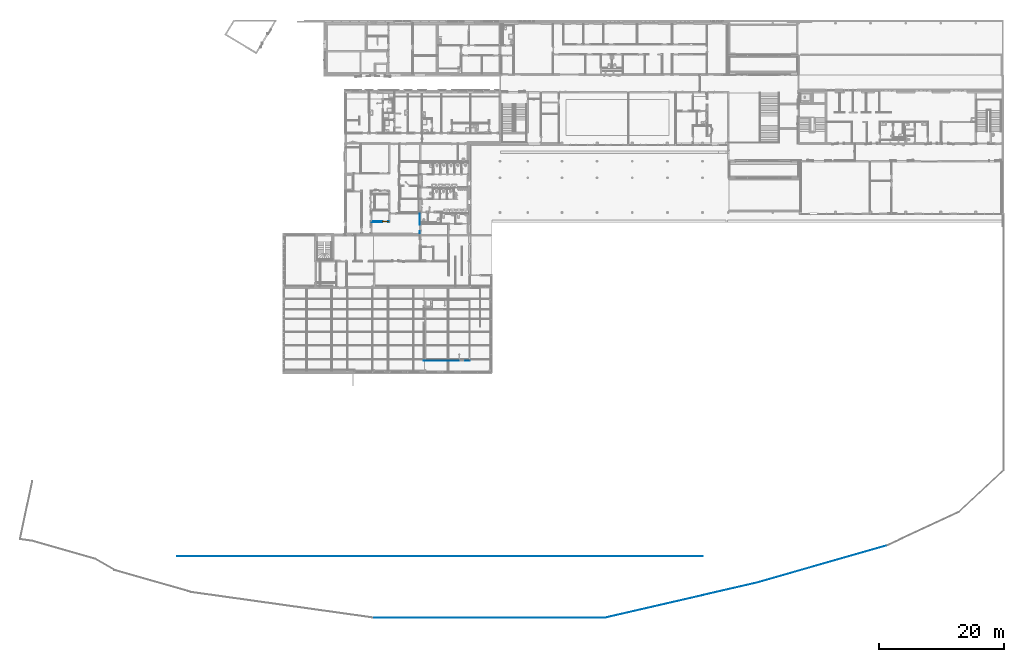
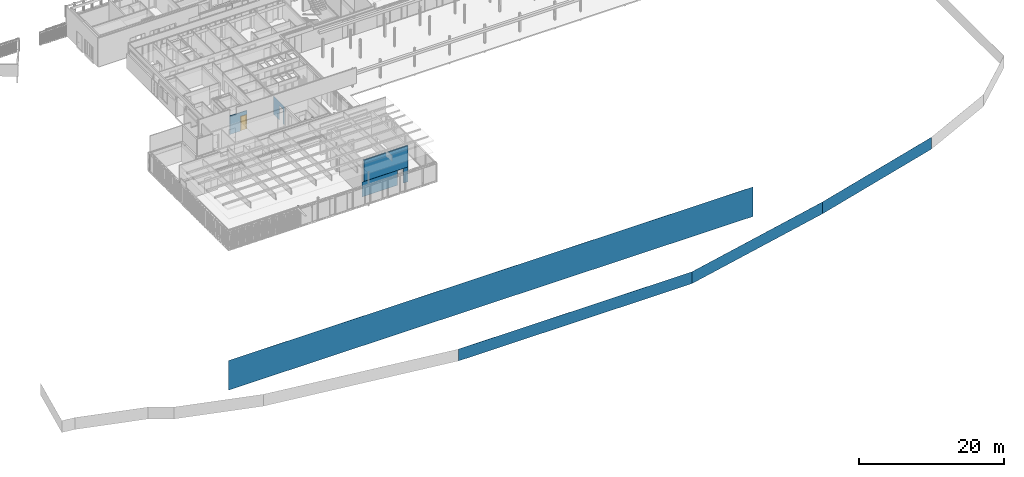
# One storey, part 90 of 240: 8 walls, 1 door, 4 openings.
"""IFC2X3 building model written with IfcOpenShell, lengths in centimetres."""

from ifc_helpers import new_model, entity, si_unit, converted_unit, derived_unit, direction, frame, frame_2d, origin, place, context, subcontext, project, spatial, polyline, rectangle, outline, extrude, faceted_brep, source, transform, mapped, material, material_list, layer, layer_set, layer_usage, type_object, type_shapes, element, fill, save


model = new_model("IFC2X3")

# Units and contexts
model_context = context("Model", 3, precision=0.001, world=origin(), true_north=direction((6.12303176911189e-17, 1.0)))
body_context = subcontext(model_context, "Body", "Model", "MODEL_VIEW")
ifc_project = project(units=[si_unit("LENGTHUNIT", "METRE", prefix="CENTI"), si_unit("AREAUNIT", "SQUARE_METRE"), si_unit("VOLUMEUNIT", "CUBIC_METRE"), converted_unit("PLANEANGLEUNIT", "DEGREE", entity("IfcRatioMeasure", 0.0174532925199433), si_unit("PLANEANGLEUNIT", "RADIAN"), dimensions=[0, 0, 0, 0, 0, 0, 0]), si_unit("MASSUNIT", "GRAM", prefix="KILO"), derived_unit("MASSDENSITYUNIT", [(si_unit("MASSUNIT", "GRAM", prefix="KILO"), 1), (si_unit("LENGTHUNIT", "METRE"), -3)]), si_unit("TIMEUNIT", "SECOND"), si_unit("FREQUENCYUNIT", "HERTZ"), si_unit("THERMODYNAMICTEMPERATUREUNIT", "DEGREE_CELSIUS"), derived_unit("THERMALTRANSMITTANCEUNIT", [(si_unit("MASSUNIT", "GRAM", prefix="KILO"), 1), (si_unit("THERMODYNAMICTEMPERATUREUNIT", "KELVIN"), -1), (si_unit("TIMEUNIT", "SECOND"), -3)]), derived_unit("VOLUMETRICFLOWRATEUNIT", [(si_unit("LENGTHUNIT", "METRE"), 3), (si_unit("TIMEUNIT", "SECOND"), -1)]), si_unit("ELECTRICCURRENTUNIT", "AMPERE"), si_unit("ELECTRICVOLTAGEUNIT", "VOLT"), si_unit("POWERUNIT", "WATT"), si_unit("FORCEUNIT", "NEWTON", prefix="KILO"), si_unit("ILLUMINANCEUNIT", "LUX"), si_unit("LUMINOUSFLUXUNIT", "LUMEN"), si_unit("LUMINOUSINTENSITYUNIT", "CANDELA"), derived_unit("USERDEFINED", [(si_unit("MASSUNIT", "GRAM", prefix="KILO"), -1), (si_unit("LENGTHUNIT", "METRE"), -2), (si_unit("TIMEUNIT", "SECOND"), 3), (si_unit("LUMINOUSFLUXUNIT", "LUMEN"), 1)]), derived_unit("LINEARVELOCITYUNIT", [(si_unit("LENGTHUNIT", "METRE"), 1), (si_unit("TIMEUNIT", "SECOND"), -1)]), si_unit("PRESSUREUNIT", "PASCAL"), derived_unit("USERDEFINED", [(si_unit("LENGTHUNIT", "METRE"), -2), (si_unit("MASSUNIT", "GRAM", prefix="KILO"), 1), (si_unit("TIMEUNIT", "SECOND"), -2)])], contexts=[model_context])

# Site, building, storey
site_placement = place(None, frame((-2781.94577612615, 7442.24238424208, 0.0)))
site = spatial("IfcSite", under=ifc_project, at=site_placement, Name="Default", CompositionType="ELEMENT")
building_placement = place(site_placement, origin())
building = spatial("IfcBuilding", under=site, at=building_placement, CompositionType="ELEMENT")
storey_placement = place(building_placement, origin())
storey = spatial("IfcBuildingStorey", under=building, at=storey_placement, Name="N00 - COO", CompositionType="ELEMENT", Elevation=0.0)

# Wall, opening
ifc_material_1 = material(Name="01 - Maçonnerie")
ifc_layer_1 = layer(ifc_material_1, 20.0)
ifc_layer_set_1 = layer_set([ifc_layer_1], Name="Mur de base:04 - Structure - béton - 20cm")
ifc_layer_usage_1 = layer_usage(ifc_layer_set_1, "AXIS2", "NEGATIVE", 10.0)
wall_type_1 = type_object("IfcWallType", Name="Mur de base:04 - Structure - béton - 20cm", PredefinedType="STANDARD", material=ifc_layer_set_1)
wall_1_placement = place(building_placement, frame((-8901.98738089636, -5373.50027342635, 0.0), z_axis=(0.0, 0.0, 1.0), x_axis=(-1.0, 0.0, 0.0)))
wall_1 = element("IfcWallStandardCase", 1, at=wall_1_placement, inside=storey, type_object=wall_type_1, material=ifc_layer_usage_1, Name="Mur de base:04 - Structure - béton - 20cm", ObjectType="Mur de base:04 - Structure - béton - 20cm", context=body_context, shape_type="SweptSolid", body=[
    extrude(rectangle(XDim=703.000000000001, YDim=20.0000000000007, at=frame_2d((351.500000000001, -2.1316282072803e-14), x_axis=(-1.0, 0.0))), origin(), (0.0, 0.0, 1.0), 605.945462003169),
])
opening_1_placement = place(wall_1_placement, frame((170.0, 10.0, 0.0)))
element("IfcOpeningElement", 2, at=opening_1_placement, cuts=wall_1, Name="Int. Simple:PP (0.93m x 2.50m):1", ObjectType="Opening", context=body_context, shape_type="SweptSolid", body=[
    extrude(rectangle(XDim=248.500000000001, YDim=99.9999999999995, at=frame_2d((124.250000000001, 50.0), x_axis=(1.0, 0.0))), frame((0.0, 0.0, 0.0), z_axis=(0.0, -1.0, 0.0), x_axis=(0.0, 0.0, 1.0)), (0.0, 0.0, 1.0), 20.0),
])

# Wall, opening, door
ifc_material_2 = material(Name="01 - Enduit/Plâtre")
ifc_layer_2 = layer(ifc_material_2, 1.0)
ifc_material_3 = material(Name="Maçonnerie - Béton")
ifc_layer_3 = layer(ifc_material_3, 10.0)
ifc_layer_4 = layer(ifc_material_2, 1.0)
ifc_layer_set_2 = layer_set([ifc_layer_2, ifc_layer_3, ifc_layer_4], Name="Mur de base:06 - cloisons - agglos10 + faïence 12cm")
ifc_layer_usage_2 = layer_usage(ifc_layer_set_2, "AXIS2", "NEGATIVE", 6.0)
wall_type_2 = type_object("IfcWallType", Name="Mur de base:06 - cloisons - agglos10 + faïence 12cm", PredefinedType="STANDARD", material=ifc_layer_set_2)
wall_2_placement = place(building_placement, frame((-10464.6130476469, -3164.07903364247, 0.0)))
wall_2 = element("IfcWallStandardCase", 3, at=wall_2_placement, inside=storey, type_object=wall_type_2, material=ifc_layer_usage_2, Name="Mur de base:06 - cloisons - agglos10 + faïence 12cm", ObjectType="Mur de base:06 - cloisons - agglos10 + faïence 12cm", context=body_context, shape_type="SweptSolid", body=[
    extrude(rectangle(XDim=269.778497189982, YDim=11.9999999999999, at=frame_2d((134.889248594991, -8.39328606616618e-14), x_axis=(-1.0, 0.0))), origin(), (0.0, 0.0, 1.0), 313.0),
])
opening_2_placement = place(wall_2_placement, frame((168.278497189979, -6.0, 0.0)))
opening_2 = element("IfcOpeningElement", 4, at=opening_2_placement, cuts=wall_2, Name="Int. Simple:PP simple (0.93m x 2.50m):1", ObjectType="Opening", context=body_context, shape_type="SweptSolid", body=[
    extrude(rectangle(XDim=248.500000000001, YDim=99.9999999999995, at=frame_2d((124.250000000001, 49.9999999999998), x_axis=(1.0, 0.0))), frame((0.0, 0.0, 0.0), z_axis=(0.0, 1.0, 0.0), x_axis=(0.0, 0.0, 1.0)), (0.0, 0.0, 1.0), 12.0),
])
ifc_material_4 = material(Name="Finition Peinture - Blanc satiné")
ifc_material_5 = material(Name="Bois - Panneau de porte")
ifc_material_6 = material(Name="Bois - Cadre de porte")
ifc_material_list_1 = material_list([ifc_material_4, ifc_material_5, ifc_material_6])
ifc_material_list_2 = material_list([ifc_material_4, ifc_material_5, ifc_material_6])
door_style = type_object("IfcDoorStyle", Name="PP simple (0.93m x 2.50m)", ConstructionType="NOTDEFINED", OperationType="SINGLE_SWING_RIGHT", ParameterTakesPrecedence=False, Sizeable=False, material=ifc_material_list_2)
shared_shape = source(origin(), body_context, "Body", "Brep", [
    faceted_brep([(99.5000000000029, -0.500000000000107, 87.0), (99.5000000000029, -0.500000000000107, 108.0), (98.535276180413, -0.500000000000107, 108.399601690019), (97.5000000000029, -0.500000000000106, 108.535898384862), (96.4647238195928, -0.500000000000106, 108.399601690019), (95.500000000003, -0.500000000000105, 108.0), (95.5000000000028, -0.500000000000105, 87.0), (96.4647238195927, -0.500000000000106, 86.6003983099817), (97.5000000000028, -0.500000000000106, 86.464101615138), (98.5352761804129, -0.500000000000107, 86.6003983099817), (99.5000000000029, 0.0, 108.0), (99.5000000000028, 0.0, 87.0), (98.5352761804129, 0.0, 86.6003983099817), (97.5000000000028, 0.0, 86.464101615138), (96.4647238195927, 0.0, 86.6003983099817), (95.5000000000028, 0.0, 87.0), (95.5000000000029, 0.0, 108.0), (96.4647238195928, 0.0, 108.399601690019), (97.5000000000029, 0.0, 108.535898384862), (98.535276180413, 0.0, 108.399601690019)], [[[0, 1, 2, 3, 4, 5, 6, 7, 8, 9]], [[10, 11, 12, 13, 14, 15, 16, 17, 18, 19]], [[9, 12, 11, 0]], [[8, 13, 12, 9]], [[7, 14, 13, 8]], [[7, 6, 15, 14]], [[15, 6, 5, 16]], [[4, 17, 16, 5]], [[3, 18, 17, 4]], [[2, 19, 18, 3]], [[2, 1, 10, 19]], [[11, 10, 1, 0]]]),
    faceted_brep([(99.5000000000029, 4.0, 87.0), (99.5000000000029, 4.0, 108.0), (98.535276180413, 4.0, 108.399601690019), (97.5000000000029, 4.0, 108.535898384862), (96.4647238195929, 4.0, 108.399601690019), (95.500000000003, 4.0, 108.0), (95.5000000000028, 4.0, 87.0), (96.4647238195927, 4.0, 86.6003983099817), (97.5000000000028, 4.0, 86.464101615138), (98.5352761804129, 4.0, 86.6003983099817), (97.5000000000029, 4.49999999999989, 108.535898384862), (98.535276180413, 4.49999999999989, 108.399601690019), (99.5000000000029, 4.49999999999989, 108.0), (99.5000000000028, 4.49999999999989, 87.0), (98.5352761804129, 4.49999999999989, 86.6003983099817), (97.5000000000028, 4.49999999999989, 86.464101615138), (96.4647238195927, 4.49999999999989, 86.6003983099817), (95.5000000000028, 4.49999999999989, 87.0), (95.500000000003, 4.49999999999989, 108.0), (96.4647238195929, 4.49999999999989, 108.399601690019)], [[[0, 1, 2, 3, 4, 5, 6, 7, 8, 9]], [[10, 11, 12, 13, 14, 15, 16, 17, 18, 19]], [[4, 19, 18, 5]], [[3, 10, 19, 4]], [[2, 11, 10, 3]], [[2, 1, 12, 11]], [[13, 12, 1, 0]], [[9, 14, 13, 0]], [[8, 15, 14, 9]], [[7, 16, 15, 8]], [[7, 6, 17, 16]], [[17, 6, 5, 18]]]),
    faceted_brep([(97.2974701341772, -0.500000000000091, 100.778044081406), (97.7025298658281, -0.500000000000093, 100.778044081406), (98.1000000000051, -0.500000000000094, 100.699999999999), (98.100000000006, -0.500000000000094, 99.2999999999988), (97.7025298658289, -0.500000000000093, 99.221955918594), (97.297470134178, -0.500000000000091, 99.2219559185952), (96.9000000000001, -0.500000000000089, 99.3000000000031), (96.9000000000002, -0.500000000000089, 100.7), (97.7025298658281, -3.10045754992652, 100.778044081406), (98.1000000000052, -3.26509507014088, 100.7), (97.2974701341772, -2.93267631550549, 100.778044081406), (95.9298602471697, -4.30028620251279, 100.778044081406), (96.0976414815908, -4.70534593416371, 100.778044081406), (96.9000000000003, -2.76803879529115, 100.7), (96.9000000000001, -2.76803879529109, 99.3000000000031), (97.297470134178, -2.93267631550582, 99.2219559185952), (97.7025298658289, -3.10045754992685, 99.221955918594), (96.0976414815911, -4.7053459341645, 99.221955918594), (95.9298602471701, -4.30028620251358, 99.2219559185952), (98.100000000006, -3.26509507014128, 99.2999999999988), (96.2622790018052, -5.10281606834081, 100.7), (95.7652227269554, -3.90281606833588, 100.7), (95.7652227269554, -3.90281606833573, 99.3000000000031), (96.2622790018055, -5.10281606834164, 99.2999999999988), (87.4981359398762, -5.10281606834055, 100.7), (87.4981359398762, -4.70534593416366, 100.778044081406), (87.4981359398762, -4.30028620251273, 100.778044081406), (87.4981359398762, -3.90281606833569, 100.699999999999), (87.4981359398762, -3.90281606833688, 99.3000000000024), (87.4981359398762, -4.30028620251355, 99.2219559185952), (87.4981359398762, -4.70534593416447, 99.221955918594), (87.4981359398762, -5.10281606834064, 99.2999999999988), (91.7139980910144, -4.5028160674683, 100.78786867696), (92.2692302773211, -5.1028160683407, 100.7), (91.6316793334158, -3.9028160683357, 100.7), (91.631679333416, -3.9028160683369, 99.3000000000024), (91.7139981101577, -4.50281607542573, 99.2121313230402), (92.2692310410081, -5.10281606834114, 99.2999999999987)], [[[0, 1, 2, 3, 4, 5, 6, 7]], [[2, 1, 8, 9]], [[1, 0, 10, 11, 12, 8]], [[0, 7, 13, 10]], [[14, 13, 7, 6]], [[5, 15, 14, 6]], [[5, 4, 16, 17, 18, 15]], [[3, 19, 16, 4]], [[9, 19, 3, 2]], [[9, 8, 12, 20]], [[10, 13, 21, 11]], [[22, 21, 13, 14]], [[14, 15, 18, 22]], [[16, 19, 23, 17]], [[20, 23, 19, 9]], [[24, 25, 26, 27, 28, 29, 30, 31]], [[32, 25, 33]], [[33, 25, 24]], [[33, 20, 12]], [[11, 34, 32]], [[34, 11, 21]], [[27, 26, 34]], [[32, 26, 25]], [[32, 34, 26]], [[32, 33, 12]], [[11, 32, 12]], [[21, 22, 35, 28, 27, 34]], [[36, 29, 35]], [[30, 36, 37]], [[18, 35, 22]], [[29, 28, 35]], [[30, 37, 31]], [[37, 17, 23]], [[36, 17, 37]], [[36, 18, 17]], [[36, 35, 18]], [[29, 36, 30]], [[23, 20, 33, 24, 31, 37]]]),
    faceted_brep([(97.2974701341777, 4.49999999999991, 99.2219559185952), (97.7025298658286, 4.49999999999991, 99.221955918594), (98.1000000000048, 4.4999999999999, 99.2999999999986), (98.1000000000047, 4.4999999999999, 100.7), (97.7025298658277, 4.49999999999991, 100.778044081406), (97.2974701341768, 4.49999999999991, 100.778044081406), (96.8999999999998, 4.49999999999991, 100.7), (96.900000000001, 4.49999999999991, 99.3000000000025), (96.8999999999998, 6.7485204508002, 100.7), (96.8999999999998, 6.74852045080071, 99.3000000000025), (97.2974701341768, 6.91315797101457, 100.778044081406), (97.7025298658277, 7.0809392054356, 100.778044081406), (96.0838906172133, 8.69957845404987, 100.778044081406), (95.9161093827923, 8.29451872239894, 100.778044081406), (98.1000000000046, 7.24557672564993, 100.7), (98.1000000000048, 7.24557672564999, 99.2999999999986), (97.7025298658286, 7.08093920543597, 99.221955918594), (97.2974701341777, 6.91315797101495, 99.2219559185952), (95.9161093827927, 8.29451872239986, 99.2219559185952), (96.0838906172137, 8.69957845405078, 99.221955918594), (95.751471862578, 7.89704858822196, 100.7), (95.7514718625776, 7.89704858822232, 99.3000000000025), (96.2485281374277, 9.09704858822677, 100.7), (96.2485281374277, 9.09704858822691, 99.2999999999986), (87.4954216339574, 8.29451872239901, 100.778044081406), (87.4954216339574, 8.69957845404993, 100.778044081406), (87.4954216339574, 9.09704858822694, 100.7), (87.4954216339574, 9.09704858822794, 99.2999999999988), (87.4954216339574, 8.6995784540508, 99.221955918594), (87.4954216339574, 8.29451872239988, 99.2219559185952), (87.4954216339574, 7.89704858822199, 99.3000000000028), (87.4954216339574, 7.89704858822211, 100.7), (91.6234467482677, 7.89704858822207, 100.7), (91.6234479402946, 7.89704858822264, 99.3000000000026), (91.7057655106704, 8.49704858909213, 100.78786867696), (92.255479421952, 9.09704858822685, 100.7), (92.2554795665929, 9.09704858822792, 99.2999999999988), (91.7057654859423, 8.49704858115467, 99.2121313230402)], [[[0, 1, 2, 3, 4, 5, 6, 7]], [[8, 9, 7, 6]], [[5, 10, 8, 6]], [[5, 4, 11, 12, 13, 10]], [[3, 14, 11, 4]], [[14, 3, 2, 15]], [[2, 1, 16, 15]], [[1, 0, 17, 18, 19, 16]], [[0, 7, 9, 17]], [[20, 21, 9, 8]], [[8, 10, 13, 20]], [[14, 22, 12, 11]], [[23, 22, 14, 15]], [[15, 16, 19, 23]], [[17, 9, 21, 18]], [[24, 25, 26, 27, 28, 29, 30, 31]], [[21, 20, 32, 31, 30, 33]], [[34, 24, 32]], [[25, 34, 35]], [[13, 32, 20]], [[24, 31, 32]], [[25, 35, 26]], [[35, 12, 22]], [[34, 12, 35]], [[34, 13, 12]], [[34, 32, 13]], [[24, 34, 25]], [[22, 23, 36, 27, 26, 35]], [[37, 28, 36]], [[36, 28, 27]], [[36, 23, 19]], [[18, 33, 37]], [[33, 18, 21]], [[30, 29, 33]], [[37, 29, 28]], [[37, 33, 29]], [[37, 36, 19]], [[18, 37, 19]]]),
    faceted_brep([(103.500000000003, 4.0, 245.0), (103.500000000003, 4.0, 0.0), (10.5000000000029, 4.0, 0.0), (10.5000000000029, 4.0, 245.0), (103.500000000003, 0.0, 245.0), (10.5000000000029, 0.0, 245.0), (10.5000000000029, 0.0, 0.0), (103.500000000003, 0.0, 0.0)], [[[0, 1, 2, 3]], [[4, 5, 6, 7]], [[3, 5, 4, 0]], [[2, 6, 5, 3]], [[1, 7, 6, 2]], [[0, 4, 7, 1]]]),
    faceted_brep([(107.0, 12.0, 0.0), (107.0, 0.0, 0.0), (108.500000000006, 0.0, 0.0), (108.500000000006, -0.500000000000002, 0.0), (103.500000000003, -0.500000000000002, 0.0), (103.500000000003, 4.0, 0.0), (102.0, 4.0, 0.0), (102.0, 12.5000000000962, 0.0), (108.500000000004, 12.5000000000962, 0.0), (108.500000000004, 12.0, 0.0), (107.0, 12.0, 248.500000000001), (107.0, 0.0, 248.500000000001), (108.500000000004, 12.0, 250.0), (5.50000000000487, 12.0, 250.0), (5.50000000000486, 12.0, 0.0), (7.0, 12.0, 0.0), (7.0, 12.0, 248.500000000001), (102.0, 4.0, 243.5), (102.0, 12.5000000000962, 243.5), (103.500000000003, 4.0, 245.0), (10.5000000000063, 4.0, 245.0), (10.5000000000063, 4.0, 0.0), (12.0, 4.0, 0.0), (12.0, 4.0, 243.5), (7.0, 0.0, 0.0), (7.0, 0.0, 248.500000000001), (5.50000000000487, 12.5000000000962, 0.0), (12.0, 12.5000000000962, 0.0), (10.5000000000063, -0.500000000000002, 0.0), (5.5000000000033, -0.500000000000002, 0.0), (5.5000000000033, 0.0, 0.0), (12.0, 12.5000000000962, 243.5), (103.500000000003, -0.500000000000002, 245.0), (108.500000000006, -0.500000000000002, 250.0), (5.5000000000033, -0.500000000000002, 250.0), (10.5000000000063, -0.500000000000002, 245.0), (108.500000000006, 0.0, 250.0), (5.50000000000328, 0.0, 250.0), (108.500000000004, 12.5000000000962, 250.0), (5.50000000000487, 12.5000000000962, 250.0)], [[[0, 1, 2, 3, 4, 5, 6, 7, 8, 9]], [[0, 10, 11, 1]], [[9, 12, 13, 14, 15, 16, 10, 0]], [[7, 6, 17, 18]], [[5, 19, 20, 21, 22, 23, 17, 6]], [[16, 15, 24, 25]], [[15, 14, 26, 27, 22, 21, 28, 29, 30, 24]], [[23, 22, 27, 31]], [[10, 16, 25, 11]], [[17, 23, 31, 18]], [[5, 4, 32, 19]], [[3, 33, 34, 29, 28, 35, 32, 4]], [[2, 36, 33, 3]], [[1, 11, 25, 24, 30, 37, 36, 2]], [[8, 38, 12, 9]], [[7, 18, 31, 27, 26, 39, 38, 8]], [[35, 28, 21, 20]], [[37, 30, 29, 34]], [[39, 26, 14, 13]], [[32, 35, 20, 19]], [[36, 37, 34, 33]], [[38, 39, 13, 12]]]),
])
type_shapes(door_style, [shared_shape])
door_placement = place(opening_2_placement, frame((107.0, 12.0, 0.0), z_axis=(0.0, 0.0, 1.0), x_axis=(-1.0, 0.0, 0.0)))
door = element("IfcDoor", 5, at=door_placement, inside=storey, type_object=door_style, material=ifc_material_list_1, Name="Int. Simple:PP simple (0.93m x 2.50m)", ObjectType="Int. Simple:PP simple (0.93m x 2.50m)", OverallHeight=248.500000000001, OverallWidth=99.9999999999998, context=body_context, shape_type="MappedRepresentation", body=[
    mapped(shared_shape, transform((0.0, 0.0, 0.0), scale=1.0)),
])
fill(opening_2, door)

# Wall, opening
ifc_material_7 = material(Name="CP bouleau perforé")
ifc_layer_5 = layer(ifc_material_7, 2.0)
ifc_layer_set_3 = layer_set([ifc_layer_5], Name="Mur de base:06 - habillage bois collée 2cm perforé")
ifc_layer_usage_3 = layer_usage(ifc_layer_set_3, "AXIS2", "NEGATIVE", 1.0)
wall_type_3 = type_object("IfcWallType", Name="Mur de base:06 - habillage bois collée 2cm perforé", PredefinedType="STANDARD", material=ifc_layer_set_3)
wall_3_placement = place(building_placement, frame((-9632.98738089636, -5384.50027342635, 0.0)))
wall_3 = element("IfcWallStandardCase", 6, at=wall_3_placement, inside=storey, type_object=wall_type_3, material=ifc_layer_usage_3, Name="Mur de base:06 - habillage bois collée 2cm perforé", ObjectType="Mur de base:06 - habillage bois collée 2cm perforé", context=body_context, shape_type="SweptSolid", body=[
    extrude(rectangle(XDim=733.000000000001, YDim=1.99999999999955, at=frame_2d((366.500000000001, 1.79856129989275e-14), x_axis=(-1.0, 0.0))), origin(), (0.0, 0.0, 1.0), 250.0),
])
opening_3_placement = place(wall_3_placement, origin())
element("IfcOpeningElement", 7, at=opening_3_placement, cuts=wall_3, Name="Mur de base:06 - habillage bois collée 2cm perforé", ObjectType="Opening", context=body_context, shape_type="SweptSolid", body=[
    extrude(rectangle(XDim=248.500000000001, YDim=99.9999999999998, at=frame_2d((0.0, -8.66862137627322e-13), x_axis=(1.0, 0.0))), frame((611.0, -131.4, 124.250000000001), z_axis=(0.0, 1.0, 0.0), x_axis=(0.0, 0.0, 1.0)), (0.0, 0.0, 1.0), 304.8),
])

# Walls
ifc_material_8 = material(Name="Métal déployé grillage")
ifc_layer_6 = layer(ifc_material_8, 1.0)
ifc_layer_set_4 = layer_set([ifc_layer_6], Name="Mur de base:clôture")
ifc_layer_usage_4 = layer_usage(ifc_layer_set_4, "AXIS2", "NEGATIVE", 0.5)
wall_type_4 = type_object("IfcWallType", Name="Mur de base:clôture", PredefinedType="STANDARD", material=ifc_layer_set_4)
wall_4_placement = place(building_placement, frame((-2239.34965652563, -8322.09026797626, 0.0), z_axis=(0.0, 0.0, 1.0), x_axis=(-0.961261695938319, -0.275637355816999, 0.0)))
element("IfcWallStandardCase", 8, at=wall_4_placement, inside=storey, type_object=wall_type_4, material=ifc_layer_usage_4, Name="Mur de base:clôture", ObjectType="Mur de base:clôture", context=body_context, shape_type="SweptSolid", body=[
    extrude(outline(polyline([(2168.58881603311, -0.500000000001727), (2168.6150019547, 0.499999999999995), (0.0, 0.4999999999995), (0.078701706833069, -0.500000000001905), (2168.58881603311, -0.500000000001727)])), origin(), (0.0, 0.0, 1.0), 200.0),
])
ifc_layer_usage_5 = layer_usage(ifc_layer_set_4, "AXIS2", "NEGATIVE", 0.5)
wall_5_placement = place(building_placement, frame((-4323.93084799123, -8919.83501871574, 0.0), z_axis=(0.0, 0.0, 1.0), x_axis=(-0.974370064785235, -0.224951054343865, 0.0)))
element("IfcWallStandardCase", 9, at=wall_5_placement, inside=storey, type_object=wall_type_4, material=ifc_layer_usage_5, Name="Mur de base:clôture", ObjectType="Mur de base:clôture", context=body_context, shape_type="SweptSolid", body=[
    extrude(outline(polyline([(2469.95612515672, -0.499999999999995), (2470.07006076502, 0.499999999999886), (0.0, 0.500000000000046), (0.0261859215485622, -0.500000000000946), (2469.95612515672, -0.499999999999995)])), origin(), (0.0, 0.0, 1.0), 200.0),
])
ifc_layer_usage_6 = layer_usage(ifc_layer_set_4, "AXIS2", "NEGATIVE", 0.5)
wall_6_placement = place(building_placement, frame((-6730.58069759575, -9475.46706822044, 0.0), z_axis=(0.0, 0.0, 1.0), x_axis=(-1.0, 0.0, 0.0)))
element("IfcWallStandardCase", 10, at=wall_6_placement, inside=storey, type_object=wall_type_4, material=ifc_layer_usage_6, Name="Mur de base:clôture", ObjectType="Mur de base:clôture", context=body_context, shape_type="SweptSolid", body=[
    extrude(outline(polyline([(3723.44676777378, -0.499999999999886), (3723.51669458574, 0.499999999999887), (0.0, 0.499999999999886), (0.113935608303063, -0.499999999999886), (3723.44676777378, -0.499999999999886)])), origin(), (0.0, 0.0, 1.0), 200.0),
])
ifc_layer_usage_7 = layer_usage(ifc_layer_set_4, "AXIS2", "NEGATIVE", 0.5)
wall_7_placement = place(building_placement, frame((-13561.0010492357, -8495.37763210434, 0.0)))
element("IfcWallStandardCase", 11, at=wall_7_placement, inside=storey, type_object=wall_type_4, material=ifc_layer_usage_7, Name="Mur de base:clôture", ObjectType="Mur de base:clôture", context=body_context, shape_type="SweptSolid", body=[
    extrude(rectangle(XDim=8371.50100757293, YDim=0.999999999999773, at=frame_2d((4185.75050378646, 0.0), x_axis=(-1.0, 0.0))), origin(), (0.0, 0.0, 1.0), 500.0),
])

# Wall, opening
ifc_material_9 = material(Name="01 - Faïence sanitaires")
ifc_layer_7 = layer(ifc_material_9, 1.0)
ifc_layer_set_5 = layer_set([ifc_layer_7], Name="Mur de base:04 - Parement - faïence 1cm")
ifc_layer_usage_8 = layer_usage(ifc_layer_set_5, "AXIS2", "NEGATIVE", 0.5)
wall_type_5 = type_object("IfcWallType", Name="Mur de base:04 - Parement - faïence 1cm", PredefinedType="STANDARD", material=ifc_layer_set_5)
wall_8_placement = place(building_placement, frame((-9697.4999969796, -3352.52180651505, 0.0), z_axis=(0.0, 0.0, 1.0), x_axis=(0.0, 1.0, 0.0)))
wall_8 = element("IfcWallStandardCase", 12, at=wall_8_placement, inside=storey, type_object=wall_type_5, material=ifc_layer_usage_8, Name="Mur de base:04 - Parement - faïence 1cm", ObjectType="Mur de base:04 - Parement - faïence 1cm", context=body_context, shape_type="SweptSolid", body=[
    extrude(rectangle(XDim=312.0, YDim=0.999999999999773, at=frame_2d((156.0, 0.0), x_axis=(-1.0, 0.0))), origin(), (0.0, 0.0, 1.0), 313.0),
])
opening_4_placement = place(wall_8_placement, origin())
element("IfcOpeningElement", 13, at=opening_4_placement, cuts=wall_8, Name="Mur de base:04 - Parement - faïence 1cm", ObjectType="Opening", context=body_context, shape_type="SweptSolid", body=[
    extrude(rectangle(XDim=248.500000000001, YDim=99.9999999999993, at=frame_2d((-2.16715534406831e-13, 0.0), x_axis=(0.0, 1.0))), frame((87.4427728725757, -172.900000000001, 124.250000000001), z_axis=(0.0, 1.0, 0.0), x_axis=(-1.0, 0.0, 0.0)), (0.0, 0.0, 1.0), 304.8),
])

save(model, "model.ifc")
